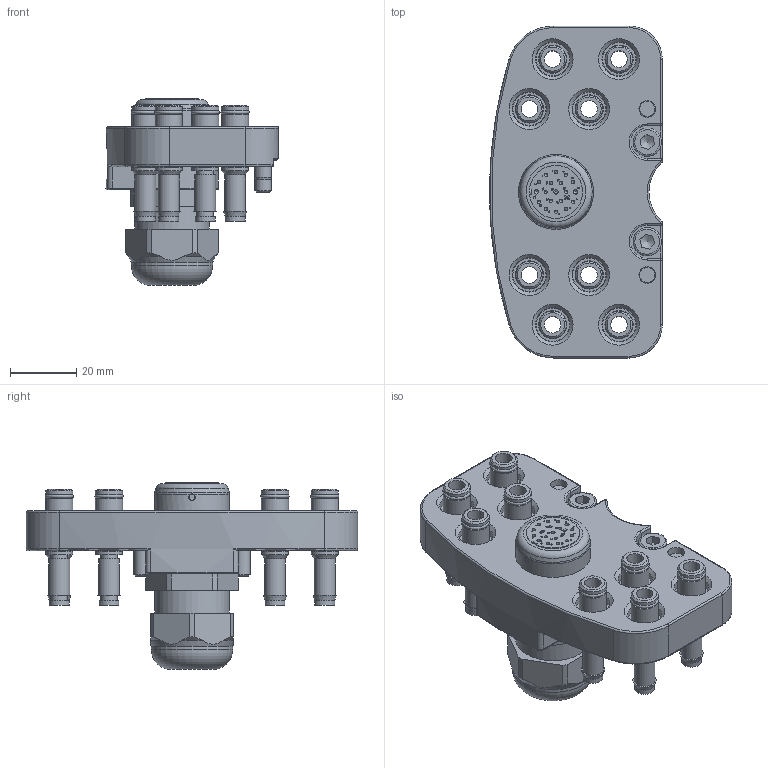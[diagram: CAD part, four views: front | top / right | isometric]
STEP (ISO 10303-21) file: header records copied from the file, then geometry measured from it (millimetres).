
FILE_DESCRIPTION(/* description */ (''),/* implementation_level */ '2;1');
FILE_NAME(/* name */ 'T:\Engineering\Homepage\Homepage 2020\4 3D Step-Daten - Homepage\5 MEK\G-MEK200-O-8Pk6-1E19C-M20.stp',/* time_stamp */ '2023-01-06T10:48:49+01:00',/* author */ ('ysplieth'),/* organization */ (''),/* preprocessor_version */ 'ST-DEVELOPER v17',/* originating_system */ 'Autodesk Inventor 2018',/* authorisation */ '');
FILE_SCHEMA (('AUTOMOTIVE_DESIGN { 1 0 10303 214 3 1 1 }'));
Length unit declared in the file: millimetre
Products named in the file (1): Bauteil2
Bounding box: 51.94 x 100 x 56.28 mm (x, y, z)
Volume: 71442.9 mm3; surface area: 39098.6 mm2
Topology: 28 solids, 30 shells, 1087 faces, 2938 edges, 2040 vertices
Faces by surface type: plane 451, cylinder 292, bspline 199, cone 100, torus 39, sphere 6
Full cylindrical faces by diameter (mm): 1 x16, 1.3 x3, 1.5 x2, 1.8 x1, 2 x34, 2.2 x4, 2.5 x16, 2.6 x16, 2.7 x3, 2.8 x3, 5 x12, 5.02 x2, 5.5 x2, 6 x8, 6.3 x8, 6.5 x16, 7.5 x8, 8.1 x16, 8.2 x16, 8.5 x2, 10 x8, 10.3 x8, 13.5 x1, 15 x2, 17.1 x1, 18.376 x1, 20 x1, 22.5 x1, 22.6 x1, 24.5 x1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
Entity records: 37430 total; most frequent: CARTESIAN_POINT 9548, ORIENTED_EDGE 5800, DIRECTION 5337, EDGE_CURVE 2900, VERTEX_POINT 2042, AXIS2_PLACEMENT_3D 2025, EDGE_LOOP 1334, LINE 1287
